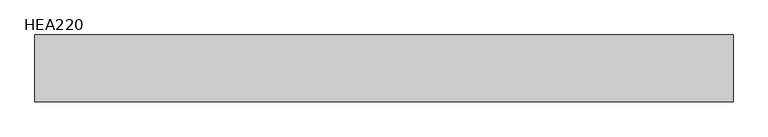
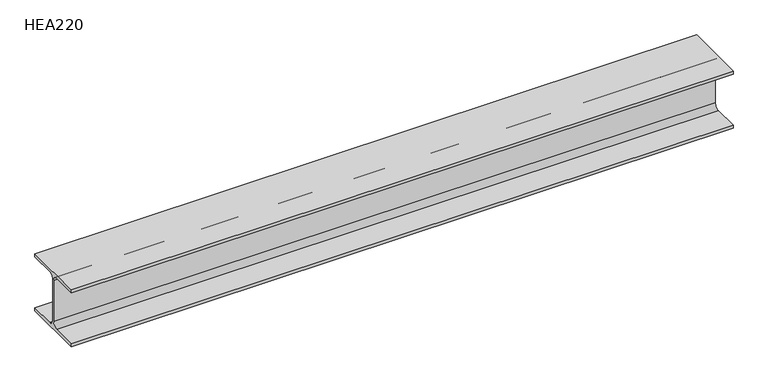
"""IFC4 building model written with IfcOpenShell, lengths in millimetres: beam geometry, HE-A : HEA220."""

from ifc_helpers import new_model, si_unit, point, frame, frame_2d, origin, place, context, project, spatial, polyline, circle_curve, trimmed, segment, composite_curve, outline, extrude, source, transform, mapped, element, save


def hea220_ffc9ca0b(model_context):
    return source(origin(), model_context, "Body", "SweptSolid", [
        extrude(outline(composite_curve([segment(polyline([(110.0, -94.0), (110.0, -105.0), (-110.0, -105.0), (-110.0, -94.0), (-21.5, -94.0)]), True, "CONTINUOUS"), segment(trimmed(circle_curve(frame_2d((-21.5, -76.0)), 18.0), [point((-21.5, -94.0))], [point((-3.5, -76.0))], True, "CARTESIAN"), True, "CONTINUOUS"), segment(polyline([(-3.5, -76.0), (-3.5, 76.0)]), True, "CONTINUOUS"), segment(trimmed(circle_curve(frame_2d((-21.5, 76.0)), 18.0), [point((-3.5, 76.0))], [point((-21.5, 94.0))], True, "CARTESIAN"), True, "CONTINUOUS"), segment(polyline([(-21.5, 94.0), (-110.0, 94.0), (-110.0, 105.0), (110.0, 105.0), (110.0, 94.0), (21.5, 94.0)]), True, "CONTINUOUS"), segment(trimmed(circle_curve(frame_2d((21.5, 76.0)), 18.0), [point((21.5, 94.0))], [point((3.5, 76.0))], True, "CARTESIAN"), True, "CONTINUOUS"), segment(polyline([(3.5, 76.0), (3.5, -76.0)]), True, "CONTINUOUS"), segment(trimmed(circle_curve(frame_2d((21.5, -76.0)), 18.0), [point((3.5, -76.0))], [point((21.5, -94.0))], True, "CARTESIAN"), True, "CONTINUOUS"), segment(polyline([(21.5, -94.0), (110.0, -94.0)]), True, "CONTINUOUS")], self_intersect=False)), frame((-1150.25, 0.0, 0.0), z_axis=(1.0, 0.0, 0.0), x_axis=(0.0, 1.0, 0.0)), (0.0, 0.0, 1.0), 2300.5),
    ])


if __name__ == "__main__":
    model = new_model("IFC4")
    model_context = context("Model", 3, world=origin())
    ifc_project = project(units=[si_unit("LENGTHUNIT", "METRE", prefix="MILLI")], contexts=[model_context])
    site = spatial("IfcSite", under=ifc_project)
    building = spatial("IfcBuilding", under=site)
    placement = place(None, origin())
    hea220_shape = hea220_ffc9ca0b(model_context)
    element("IfcBeam", 1, ObjectType="HE-A : HEA220", at=placement, inside=building, context=model_context, shape_type="MappedRepresentation", body=[
        mapped(hea220_shape, transform((0.0, 0.0, 0.0), x_axis=(1.0, 0.0, 0.0), y_axis=(0.0, 1.0, 0.0), z_axis=(0.0, 0.0, 1.0))),
    ])
    save(model, "model.ifc")
